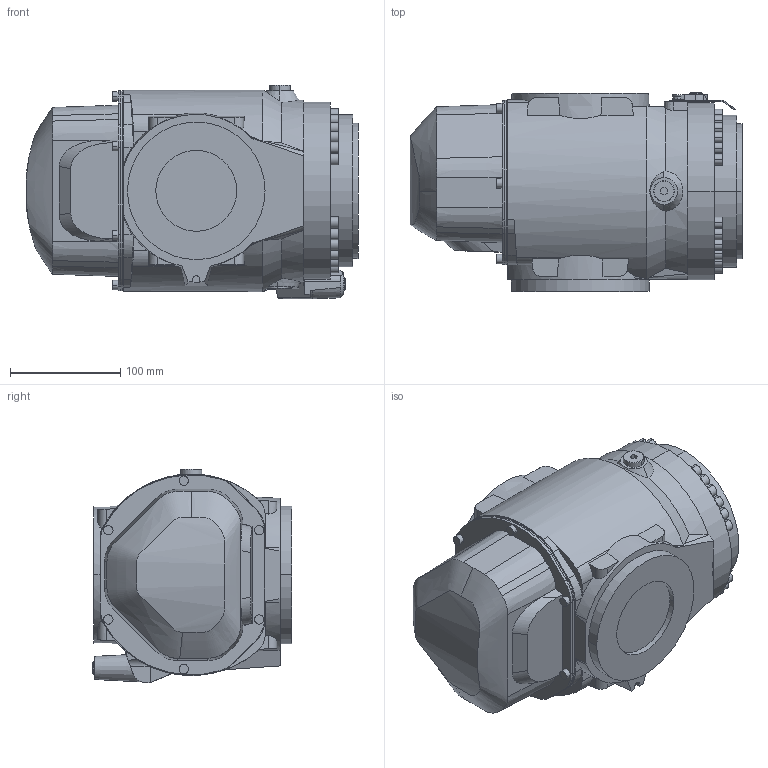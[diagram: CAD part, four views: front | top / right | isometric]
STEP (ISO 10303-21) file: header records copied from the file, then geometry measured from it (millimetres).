
FILE_DESCRIPTION (( 'STEP AP214' ), '1' );
FILE_NAME ('IRB5720-LID_155kg-260_OmniCore_rev00_LINK05_CAD.step', '2025-07-08T11:06:00', ( '' ), ( '' ), 'SwSTEP 2.0', 'SolidWorks 2024', '' );
FILE_SCHEMA (( 'AUTOMOTIVE_DESIGN' ));
Length unit declared in the file: millimetre
Products named in the file (1): IRB5720-LID_155kg-260_OmniCore_rev00_LINK05_CAD
Bounding box: 301.69 x 181 x 194.1 mm (x, y, z)
Volume: 6478185.3 mm3; surface area: 231348.8 mm2
Topology: 1 solids, 3 shells, 495 faces, 1279 edges, 838 vertices
Faces by surface type: plane 244, cylinder 149, cone 75, bspline 20, torus 7
Entity records: 18010 total; most frequent: CARTESIAN_POINT 6087, ORIENTED_EDGE 2550, DIRECTION 2347, EDGE_CURVE 1275, AXIS2_PLACEMENT_3D 841, VERTEX_POINT 838, LINE 665, VECTOR 665
